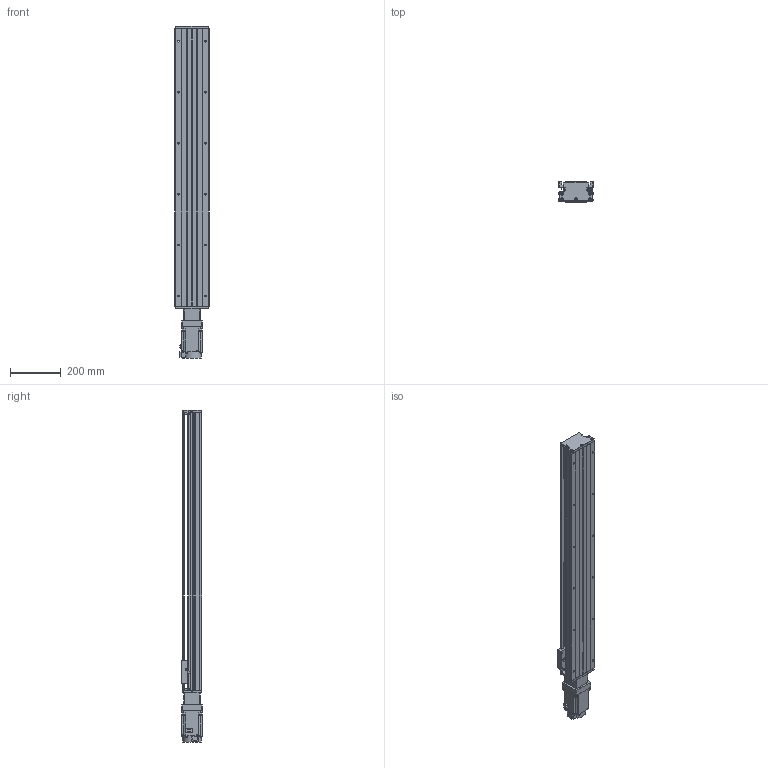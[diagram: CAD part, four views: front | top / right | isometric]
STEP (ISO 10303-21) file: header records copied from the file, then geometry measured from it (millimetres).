
FILE_DESCRIPTION (( 'STEP AP203' ), '1' );
FILE_NAME ('KTH130-950-BC-M75-C4.step', '2023-06-30T04:19:21', ( '微软用户' ), ( '微软中国' ), 'SwSTEP 2.0', 'SolidWorks 2020', '' );
FILE_SCHEMA (( 'CONFIG_CONTROL_DESIGN' ));
Length unit declared in the file: millimetre
Products named in the file (19): GB1155-6X6; GBT77-2000 M3×3; KTH130-950-BC-M75-C4; GBT70.1 M5℅16; す晦芛蹟隊 M3℅5; GBT 70.2-M3¡Á5_M3¡Á6; GBT 70.3-M3℅8; GTH14-001_950; CTHA60-017; CTHA86-006-1_M75; KTH130-002_KTH130-002; EE_SX911P_R; CTHA86-013; KTH130-004; CTHA60-016; CTHA86-027-1; KTH130-005; GBT 70.1-M3℅5; hg-kn73j_-s100
Assembly tree (52 placements, depth 2):
  KTH130-950-BC-M75-C4
    GTH14-001_950
    KTH130-002_KTH130-002
    KTH130-004
    KTH130-005
    GB1155-6X6  x2
    GBT70.1 M5℅16  x10
    GBT 70.2-M3¡Á5_M3¡Á6  x4
    CTHA60-017  x3
    EE_SX911P_R  x3
    CTHA60-016  x2
    GBT 70.1-M3℅5  x6
    GBT77-2000 M3×3  x6
    す晦芛蹟隊 M3℅5  x2
    GBT 70.3-M3℅8  x6
    CTHA86-006-1_M75
    CTHA86-013
    CTHA86-027-1
    hg-kn73j_-s100
Bounding box: 135 x 80.44 x 1303.2 mm (x, y, z)
Volume: 6951587.7 mm3; surface area: 1012421.5 mm2
Topology: 55 solids, 55 shells, 2270 faces, 5456 edges, 3399 vertices
Faces by surface type: plane 1244, cylinder 630, cone 280, torus 104, sphere 12
Entity records: 40462 total; most frequent: CARTESIAN_POINT 6681, DIRECTION 6671, ORIENTED_EDGE 6196, EDGE_CURVE 3098, AXIS2_PLACEMENT_3D 2325, LINE 2021, VECTOR 2021, VERTEX_POINT 1971
